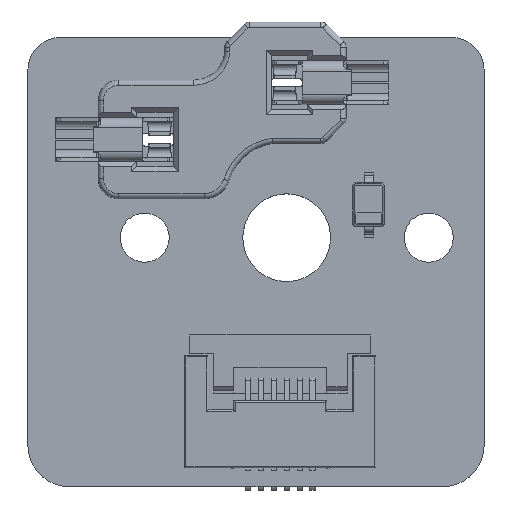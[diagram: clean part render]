
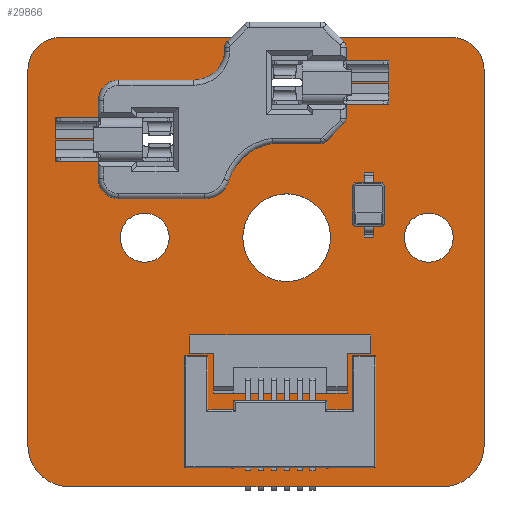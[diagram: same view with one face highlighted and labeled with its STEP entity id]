
A CAD part, top view. The second image highlights one B-rep face of the part: STEP entity #29866.
In plain terms, the highlighted planar face has unit normal (0, 0, 1).
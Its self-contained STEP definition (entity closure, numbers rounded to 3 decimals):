
#29662 = VERTEX_POINT('',#29663);
#29663 = CARTESIAN_POINT('',(154.88,-97.25,1.51));
#29669 = EDGE_CURVE('',#29662,#29670,#29672,.T.);
#29670 = VERTEX_POINT('',#29671);
#29671 = CARTESIAN_POINT('',(156.15,-98.52,1.51));
#29672 = CIRCLE('',#29673,1.27);
#29673 = AXIS2_PLACEMENT_3D('',#29674,#29675,#29676);
#29674 = CARTESIAN_POINT('',(154.88,-98.52,1.51));
#29675 = DIRECTION('',(0.,0.,-1.));
#29676 = DIRECTION('',(0.,1.,0.));
#29704 = VERTEX_POINT('',#29705);
#29705 = CARTESIAN_POINT('',(139.746,-97.25,1.51));
#29711 = EDGE_CURVE('',#29704,#29662,#29712,.T.);
#29712 = LINE('',#29713,#29714);
#29713 = CARTESIAN_POINT('',(139.746,-97.25,1.51));
#29714 = VECTOR('',#29715,1.);
#29715 = DIRECTION('',(1.,0.,0.));
#29733 = EDGE_CURVE('',#29670,#29734,#29736,.T.);
#29734 = VERTEX_POINT('',#29735);
#29735 = CARTESIAN_POINT('',(156.15,-113.031,1.51));
#29736 = LINE('',#29737,#29738);
#29737 = CARTESIAN_POINT('',(156.15,-98.52,1.51));
#29738 = VECTOR('',#29739,1.);
#29739 = DIRECTION('',(0.,-1.,0.));
#29866 = ADVANCED_FACE('',(#29867,#29913,#29924,#29935,#29946,#29957),
  #29968,.T.);
#29867 = FACE_BOUND('',#29868,.T.);
#29868 = EDGE_LOOP('',(#29869,#29870,#29871,#29880,#29888,#29897,#29905,
    #29912));
#29869 = ORIENTED_EDGE('',*,*,#29669,.F.);
#29870 = ORIENTED_EDGE('',*,*,#29711,.F.);
#29871 = ORIENTED_EDGE('',*,*,#29872,.F.);
#29872 = EDGE_CURVE('',#29873,#29704,#29875,.T.);
#29873 = VERTEX_POINT('',#29874);
#29874 = CARTESIAN_POINT('',(138.476,-98.52,1.51));
#29875 = CIRCLE('',#29876,1.27);
#29876 = AXIS2_PLACEMENT_3D('',#29877,#29878,#29879);
#29877 = CARTESIAN_POINT('',(139.746,-98.52,1.51));
#29878 = DIRECTION('',(0.,0.,-1.));
#29879 = DIRECTION('',(-1.,0.,-0.));
#29880 = ORIENTED_EDGE('',*,*,#29881,.F.);
#29881 = EDGE_CURVE('',#29882,#29873,#29884,.T.);
#29882 = VERTEX_POINT('',#29883);
#29883 = CARTESIAN_POINT('',(138.476,-113.031,1.51));
#29884 = LINE('',#29885,#29886);
#29885 = CARTESIAN_POINT('',(138.476,-113.031,1.51));
#29886 = VECTOR('',#29887,1.);
#29887 = DIRECTION('',(0.,1.,0.));
#29888 = ORIENTED_EDGE('',*,*,#29889,.F.);
#29889 = EDGE_CURVE('',#29890,#29882,#29892,.T.);
#29890 = VERTEX_POINT('',#29891);
#29891 = CARTESIAN_POINT('',(140.095,-114.65,1.51));
#29892 = CIRCLE('',#29893,1.619);
#29893 = AXIS2_PLACEMENT_3D('',#29894,#29895,#29896);
#29894 = CARTESIAN_POINT('',(140.095,-113.031,1.51));
#29895 = DIRECTION('',(0.,0.,-1.));
#29896 = DIRECTION('',(0.,-1.,-0.));
#29897 = ORIENTED_EDGE('',*,*,#29898,.F.);
#29898 = EDGE_CURVE('',#29899,#29890,#29901,.T.);
#29899 = VERTEX_POINT('',#29900);
#29900 = CARTESIAN_POINT('',(154.531,-114.65,1.51));
#29901 = LINE('',#29902,#29903);
#29902 = CARTESIAN_POINT('',(154.531,-114.65,1.51));
#29903 = VECTOR('',#29904,1.);
#29904 = DIRECTION('',(-1.,0.,0.));
#29905 = ORIENTED_EDGE('',*,*,#29906,.F.);
#29906 = EDGE_CURVE('',#29734,#29899,#29907,.T.);
#29907 = CIRCLE('',#29908,1.619);
#29908 = AXIS2_PLACEMENT_3D('',#29909,#29910,#29911);
#29909 = CARTESIAN_POINT('',(154.531,-113.031,1.51));
#29910 = DIRECTION('',(0.,0.,-1.));
#29911 = DIRECTION('',(1.,0.,0.));
#29912 = ORIENTED_EDGE('',*,*,#29733,.F.);
#29913 = FACE_BOUND('',#29914,.T.);
#29914 = EDGE_LOOP('',(#29915));
#29915 = ORIENTED_EDGE('',*,*,#29916,.T.);
#29916 = EDGE_CURVE('',#29917,#29917,#29919,.T.);
#29917 = VERTEX_POINT('',#29918);
#29918 = CARTESIAN_POINT('',(143.001,-105.954,1.51));
#29919 = CIRCLE('',#29920,0.95);
#29920 = AXIS2_PLACEMENT_3D('',#29921,#29922,#29923);
#29921 = CARTESIAN_POINT('',(143.001,-105.004,1.51));
#29922 = DIRECTION('',(-0.,0.,-1.));
#29923 = DIRECTION('',(-0.,-1.,0.));
#29924 = FACE_BOUND('',#29925,.T.);
#29925 = EDGE_LOOP('',(#29926));
#29926 = ORIENTED_EDGE('',*,*,#29927,.T.);
#29927 = EDGE_CURVE('',#29928,#29928,#29930,.T.);
#29928 = VERTEX_POINT('',#29929);
#29929 = CARTESIAN_POINT('',(148.501,-106.704,1.51));
#29930 = CIRCLE('',#29931,1.7);
#29931 = AXIS2_PLACEMENT_3D('',#29932,#29933,#29934);
#29932 = CARTESIAN_POINT('',(148.501,-105.004,1.51));
#29933 = DIRECTION('',(-0.,0.,-1.));
#29934 = DIRECTION('',(-0.,-1.,0.));
#29935 = FACE_BOUND('',#29936,.T.);
#29936 = EDGE_LOOP('',(#29937));
#29937 = ORIENTED_EDGE('',*,*,#29938,.T.);
#29938 = EDGE_CURVE('',#29939,#29939,#29941,.T.);
#29939 = VERTEX_POINT('',#29940);
#29940 = CARTESIAN_POINT('',(154.001,-105.954,1.51));
#29941 = CIRCLE('',#29942,0.95);
#29942 = AXIS2_PLACEMENT_3D('',#29943,#29944,#29945);
#29943 = CARTESIAN_POINT('',(154.001,-105.004,1.51));
#29944 = DIRECTION('',(-0.,0.,-1.));
#29945 = DIRECTION('',(-0.,-1.,0.));
#29946 = FACE_BOUND('',#29947,.T.);
#29947 = EDGE_LOOP('',(#29948));
#29948 = ORIENTED_EDGE('',*,*,#29949,.T.);
#29949 = EDGE_CURVE('',#29950,#29950,#29952,.T.);
#29950 = VERTEX_POINT('',#29951);
#29951 = CARTESIAN_POINT('',(143.501,-102.704,1.51));
#29952 = CIRCLE('',#29953,1.5);
#29953 = AXIS2_PLACEMENT_3D('',#29954,#29955,#29956);
#29954 = CARTESIAN_POINT('',(143.501,-101.204,1.51));
#29955 = DIRECTION('',(-0.,0.,-1.));
#29956 = DIRECTION('',(-0.,-1.,0.));
#29957 = FACE_BOUND('',#29958,.T.);
#29958 = EDGE_LOOP('',(#29959));
#29959 = ORIENTED_EDGE('',*,*,#29960,.T.);
#29960 = EDGE_CURVE('',#29961,#29961,#29963,.T.);
#29961 = VERTEX_POINT('',#29962);
#29962 = CARTESIAN_POINT('',(148.501,-100.604,1.51));
#29963 = CIRCLE('',#29964,1.5);
#29964 = AXIS2_PLACEMENT_3D('',#29965,#29966,#29967);
#29965 = CARTESIAN_POINT('',(148.501,-99.104,1.51));
#29966 = DIRECTION('',(-0.,0.,-1.));
#29967 = DIRECTION('',(-0.,-1.,0.));
#29968 = PLANE('',#29969);
#29969 = AXIS2_PLACEMENT_3D('',#29970,#29971,#29972);
#29970 = CARTESIAN_POINT('',(0.,0.,1.51));
#29971 = DIRECTION('',(0.,0.,1.));
#29972 = DIRECTION('',(1.,0.,-0.));
